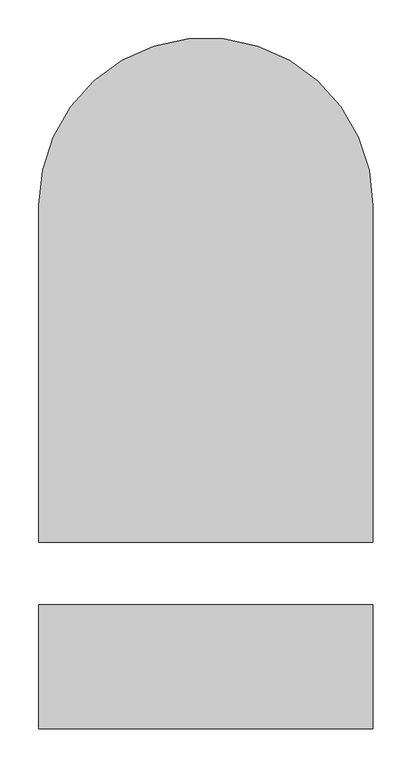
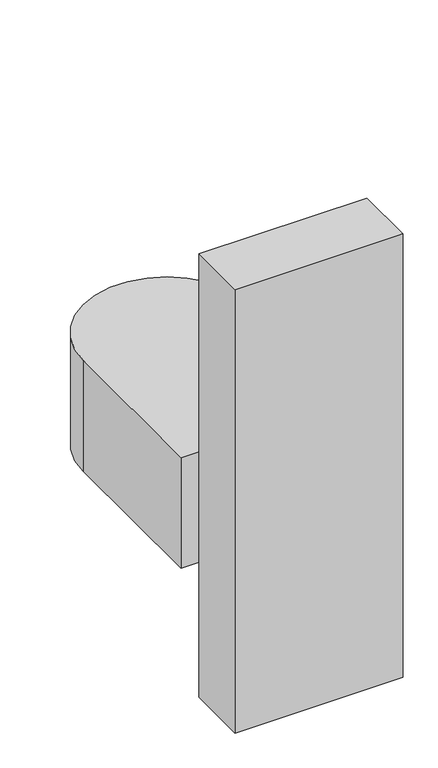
"""IFC4 building model written with IfcOpenShell, lengths in millimetres: flow terminal geometry, SP_унитаз подвесной : SP_унитаз подвесной."""

from ifc_helpers import new_model, si_unit, point, frame, frame_2d, origin, origin_with_axes, place, context, project, spatial, polyline, circle_curve, trimmed, segment, composite_curve, outline, extrude, source, transform, mapped, element, save


def flow_terminal_9331744f(model_context):
    return source(origin(), model_context, "Body", "SweptSolid", [
        extrude(outline(composite_curve([segment(polyline([(215.0, 433.7931803), (215.0, 0.0), (-215.0, 0.0), (-215.0, 433.7931803)]), True, "CONTINUOUS"), segment(trimmed(circle_curve(frame_2d((0.0, 433.7931803)), 215.0), [point((-215.0, 433.7931803))], [point((215.0, 433.7931803))], False, "CARTESIAN"), True, "CONTINUOUS")], self_intersect=False)), frame((0.0, 0.0, 300.0), z_axis=(0.0, 0.0, 1.0), x_axis=(1.0, 0.0, 0.0)), (0.0, 0.0, 1.0), 300.0),
        extrude(outline(polyline([(215.0, -80.0), (215.0, -240.0), (-215.0, -240.0), (-215.0, -80.0), (215.0, -80.0)])), origin_with_axes(), (0.0, 0.0, 1.0), 1200.0),
    ])


if __name__ == "__main__":
    model = new_model("IFC4")
    model_context = context("Model", 3, world=origin())
    ifc_project = project(units=[si_unit("LENGTHUNIT", "METRE", prefix="MILLI")], contexts=[model_context])
    site = spatial("IfcSite", under=ifc_project)
    building = spatial("IfcBuilding", under=site)
    placement = place(None, origin())
    flow_terminal_shape = flow_terminal_9331744f(model_context)
    element("IfcFlowTerminal", 1, ObjectType="SP_унитаз подвесной : SP_унитаз подвесной", at=placement, inside=building, context=model_context, shape_type="MappedRepresentation", body=[
        mapped(flow_terminal_shape, transform((0.0, 0.0, 0.0), x_axis=(1.0, 0.0, 0.0), y_axis=(0.0, 1.0, 0.0), z_axis=(0.0, 0.0, 1.0))),
    ])
    save(model, "model.ifc")
